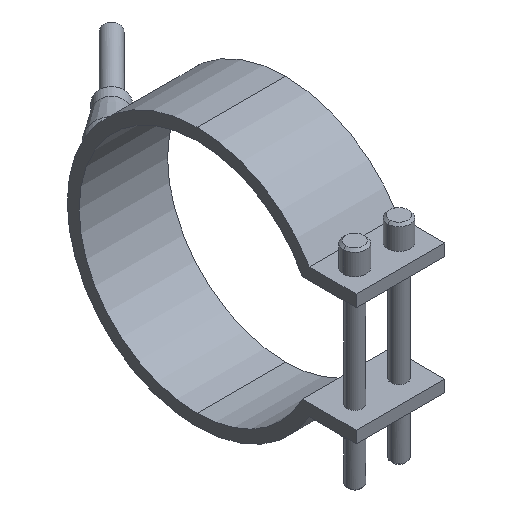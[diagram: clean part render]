
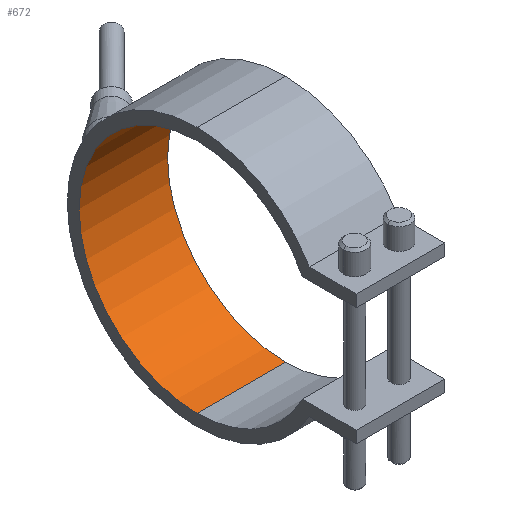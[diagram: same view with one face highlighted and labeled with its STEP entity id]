
A CAD part, isometric view. The second image highlights one B-rep face of the part: STEP entity #672.
In plain terms, the highlighted cylindrical face has radius 40 mm (diameter 80 mm), a partial arc.
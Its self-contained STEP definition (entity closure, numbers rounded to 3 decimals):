
#354=CARTESIAN_POINT('Vertex',(15.,0.,40.)) ;
#359=CARTESIAN_POINT('Axis2P3D Location',(15.,0.,0.)) ;
#363=CARTESIAN_POINT('Vertex',(15.,0.,-40.)) ;
#470=CARTESIAN_POINT('Vertex',(-15.,0.,-40.)) ;
#473=CARTESIAN_POINT('Axis2P3D Location',(-15.,0.,0.)) ;
#477=CARTESIAN_POINT('Vertex',(-15.,0.,40.)) ;
#644=CARTESIAN_POINT('Line Origine',(15.,0.,40.)) ;
#656=CARTESIAN_POINT('Axis2P3D Location',(15.,0.,0.)) ;
#661=CARTESIAN_POINT('Line Origine',(15.,0.,-40.)) ;
#360=DIRECTION('Axis2P3D Direction',(1.,0.,0.)) ;
#474=DIRECTION('Axis2P3D Direction',(1.,0.,0.)) ;
#645=DIRECTION('Vector Direction',(1.,0.,0.)) ;
#657=DIRECTION('Axis2P3D Direction',(1.,0.,-0.)) ;
#658=DIRECTION('Axis2P3D XDirection',(0.,0.,-1.)) ;
#662=DIRECTION('Vector Direction',(1.,0.,0.)) ;
#361=AXIS2_PLACEMENT_3D('Circle Axis2P3D',#359,#360,$) ;
#475=AXIS2_PLACEMENT_3D('Circle Axis2P3D',#473,#474,$) ;
#659=AXIS2_PLACEMENT_3D('Cylinder Axis2P3D',#656,#657,#658) ;
#667=ORIENTED_EDGE('',*,*,#365,.T.) ;
#668=ORIENTED_EDGE('',*,*,#648,.T.) ;
#669=ORIENTED_EDGE('',*,*,#479,.F.) ;
#670=ORIENTED_EDGE('',*,*,#665,.T.) ;
#646=VECTOR('Line Direction',#645,1.) ;
#663=VECTOR('Line Direction',#662,1.) ;
#672=ADVANCED_FACE('29080030',(#671),#660,.F.) ;
#362=CIRCLE('generated circle',#361,40.) ;
#476=CIRCLE('generated circle',#475,40.) ;
#660=CYLINDRICAL_SURFACE('generated cylinder',#659,40.) ;
#365=EDGE_CURVE('',#364,#355,#362,.T.) ;
#479=EDGE_CURVE('',#471,#478,#476,.T.) ;
#648=EDGE_CURVE('',#355,#478,#647,.F.) ;
#665=EDGE_CURVE('',#471,#364,#664,.T.) ;
#666=EDGE_LOOP('',(#667,#668,#669,#670)) ;
#671=FACE_OUTER_BOUND('',#666,.T.) ;
#647=LINE('Line',#644,#646) ;
#664=LINE('Line',#661,#663) ;
#355=VERTEX_POINT('',#354) ;
#364=VERTEX_POINT('',#363) ;
#471=VERTEX_POINT('',#470) ;
#478=VERTEX_POINT('',#477) ;
